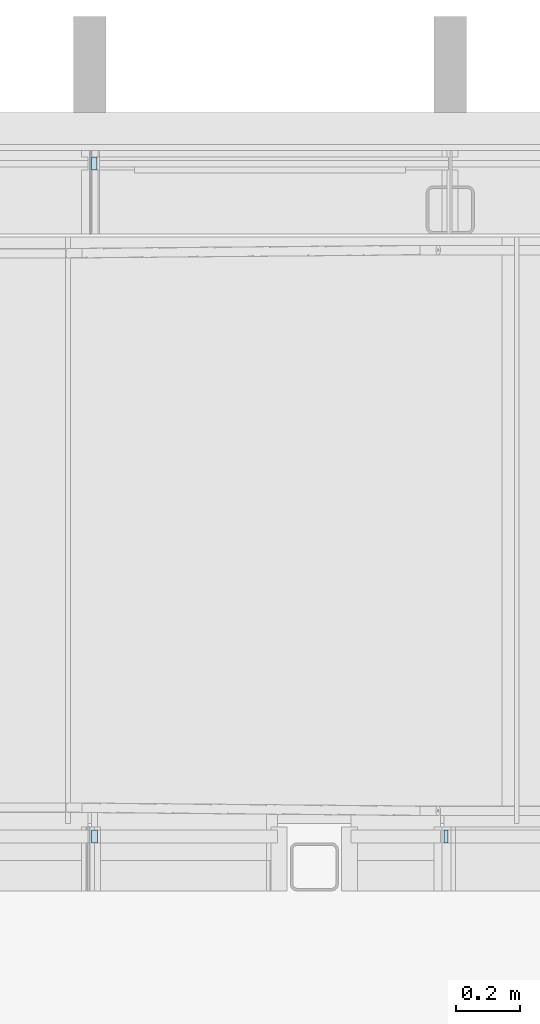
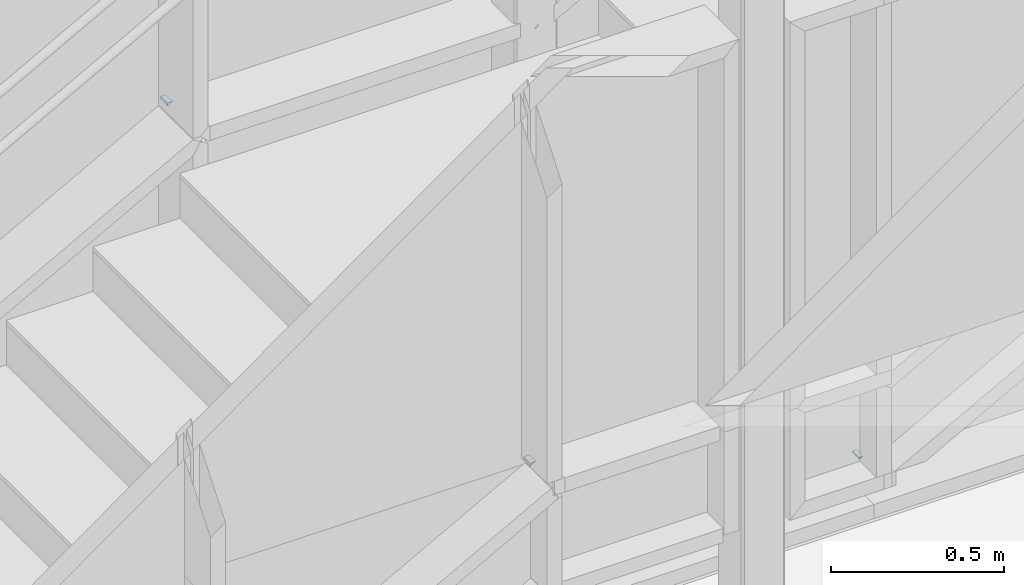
# One storey, part 85 of 301: 3 plates, 3 elements without a shape of their own.
"""IFC2X3 building model written with IfcOpenShell, lengths in millimetres."""

from ifc_helpers import new_model, entity, si_unit, converted_unit, derived_unit, money_unit, direction, frame, origin_with_axes, place, context, subcontext, project, spatial, faceted_brep, material, type_object, element, aggregate, save


model = new_model("IFC2X3")

# Units and contexts
model_context = context("Model", 3, precision=0.01, world=origin_with_axes(), true_north=direction((0.0, 1.0)))
body_context = subcontext(model_context, "Body", "Model", "MODEL_VIEW")
ifc_project = project(units=[si_unit("LENGTHUNIT", "METRE", prefix="MILLI"), si_unit("AREAUNIT", "SQUARE_METRE"), si_unit("VOLUMEUNIT", "CUBIC_METRE"), converted_unit("PLANEANGLEUNIT", "DEGREE", entity("IfcPlaneAngleMeasure", 0.0174532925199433), si_unit("PLANEANGLEUNIT", "RADIAN"), dimensions=[0, 0, 0, 0, 0, 0, 0]), money_unit("EUR"), converted_unit("TIMEUNIT", "Year", entity("IfcTimeMeasure", 31557600.0), si_unit("TIMEUNIT", "SECOND"), dimensions=[0, 0, 1, 0, 0, 0, 0]), si_unit("MASSUNIT", "GRAM", prefix="KILO"), si_unit("THERMODYNAMICTEMPERATUREUNIT", "DEGREE_CELSIUS"), si_unit("LUMINOUSINTENSITYUNIT", "LUMEN"), si_unit("ENERGYUNIT", "JOULE", prefix="MEGA"), derived_unit("THERMALCONDUCTANCEUNIT", [(si_unit("POWERUNIT", "WATT"), 1), (si_unit("LENGTHUNIT", "METRE"), -1), (si_unit("THERMODYNAMICTEMPERATUREUNIT", "KELVIN"), -1)]), derived_unit("SPECIFICHEATCAPACITYUNIT", [(si_unit("ENERGYUNIT", "JOULE"), 1), (si_unit("MASSUNIT", "GRAM", prefix="KILO"), -1), (si_unit("THERMODYNAMICTEMPERATUREUNIT", "KELVIN"), -1)]), derived_unit("MASSDENSITYUNIT", [(si_unit("MASSUNIT", "GRAM", prefix="KILO"), 1), (si_unit("VOLUMEUNIT", "CUBIC_METRE"), -1)])], contexts=[model_context])

# Site, building, storey
site_placement = place(None, frame((0.0, 0.0, 8650.0), z_axis=(0.0, 0.0, 1.0), x_axis=(1.0, 0.0, 0.0)))
site = spatial("IfcSite", under=ifc_project, at=site_placement, Name="43301:001:0844", CompositionType="ELEMENT")
building_placement = place(site_placement, origin_with_axes())
building = spatial("IfcBuilding", under=site, at=building_placement, Name="Kuressaare Ametikooli tuulikute mehaanikute õppekorpus", CompositionType="ELEMENT")
storey_placement = place(building_placement, origin_with_axes())
storey = spatial("IfcBuildingStorey", under=building, at=storey_placement, Name="1.korrus", CompositionType="ELEMENT", Elevation=0.0)

# Curtain wall, plate
curtain_wall_type = type_object("IfcCurtainWallType", Name="Curtain Wall Type", PredefinedType="NOTDEFINED")
curtain_wall_1_placement = place(storey_placement, frame((116704.6026822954, 28579.57374875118, 35.00000000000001), z_axis=(0.0, 0.0, 1.0), x_axis=(1.0, 0.0, 0.0)))
curtain_wall_1 = element("IfcCurtainWall", 1, at=curtain_wall_1_placement, inside=storey, type_object=curtain_wall_type, Name="KF-1.1")
ifc_material = material(Name="Klaas")
plate_type_1 = type_object("IfcPlateType", Name="18 x 11 x 40", PredefinedType="NOTDEFINED")
plate_1_placement = place(curtain_wall_1_placement, frame((-6179.289715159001, 0.0, 2104.545677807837), z_axis=(0.0, 0.0, 1.0), x_axis=(-1.0, 0.0, 0.0)))
plate_1 = element("IfcPlate", 2, at=plate_1_placement, type_object=plate_type_1, material=ifc_material, context=body_context, shape_type="Brep", body=[
    faceted_brep([(-14.54414219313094, 19.99999999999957, 4.003142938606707), (-14.54414219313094, -19.99999999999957, 4.003142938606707), (3.210284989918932, -19.99999999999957, 4.003142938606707), (3.210284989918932, 19.99999999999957, 4.003142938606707), (3.210284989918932, 19.99999999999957, -6.528861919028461), (3.210284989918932, -19.99999999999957, -6.528861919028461)], [[[0, 1, 2, 3]], [[4, 5, 1, 0]], [[1, 5, 2]], [[3, 2, 5, 4]], [[0, 3, 4]]]),
])
aggregate(curtain_wall_1, [plate_1])

curtain_wall_2_placement = place(storey_placement, frame((105155.4360221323, 26479.57374875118, 34.99996632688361), z_axis=(0.0, 0.0, 1.0), x_axis=(1.0, 0.0, 0.0)))
curtain_wall_2 = element("IfcCurtainWall", 3, at=curtain_wall_2_placement, inside=storey, type_object=curtain_wall_type, Name="SKF-1.1,EI60")
plate_type_2 = type_object("IfcPlateType", Name="Main Panel 20 x 11 x 40", PredefinedType="NOTDEFINED")
plate_2_placement = place(curtain_wall_2_placement, frame((5370.787878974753, 0.0, 2104.683230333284), z_axis=(0.0, 0.0, 1.0), x_axis=(-1.0, 0.0, 0.0)))
plate_2 = element("IfcPlate", 4, at=plate_2_placement, type_object=plate_type_2, material=ifc_material, context=body_context, shape_type="Brep", body=[
    faceted_brep([(-15.5840741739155, 19.99999999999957, 3.865641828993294), (-15.5840741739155, -19.99999999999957, 3.865641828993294), (4.121218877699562, -19.99999999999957, 3.865641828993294), (4.121218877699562, 19.99999999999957, 3.865641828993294), (4.121218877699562, 19.99999999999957, -6.849482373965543), (4.121218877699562, -19.99999999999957, -6.849482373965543)], [[[0, 1, 2, 3]], [[4, 5, 1, 0]], [[1, 5, 2]], [[3, 2, 5, 4]], [[0, 3, 4]]]),
])
aggregate(curtain_wall_2, [plate_2])

curtain_wall_3_placement = place(storey_placement, frame((111472.5258007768, 26479.57374875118, 1595.348937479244), z_axis=(0.0, 0.0, 1.0), x_axis=(1.0, 0.0, 0.0)))
curtain_wall_3 = element("IfcCurtainWall", 5, at=curtain_wall_3_placement, inside=storey, type_object=curtain_wall_type, Name="SKF-1.2,EI60")
plate_type_3 = type_object("IfcPlateType", Name="Main Panel 14 x 7 x 40", PredefinedType="NOTDEFINED")
plate_3_placement = place(curtain_wall_3_placement, frame((153.8133380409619, 0.0, 184.3282660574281), z_axis=(0.0, 0.0, 1.0), x_axis=(-1.0, 0.0, 0.0)))
plate_3 = element("IfcPlate", 6, at=plate_3_placement, type_object=plate_type_3, material=ifc_material, context=body_context, shape_type="Brep", body=[
    faceted_brep([(-9.27826553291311, 19.99999999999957, 0.02260562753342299), (-9.27826553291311, -19.99999999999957, 0.02260562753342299), (4.236693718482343, -19.99999999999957, 0.02260521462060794), (4.236693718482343, 19.99999999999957, 0.02260521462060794), (4.236693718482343, 19.99999999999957, -7.326377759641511), (4.236693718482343, -19.99999999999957, -7.326377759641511)], [[[0, 1, 2, 3]], [[4, 5, 1, 0]], [[1, 5, 2]], [[3, 2, 5, 4]], [[0, 3, 4]]]),
])
aggregate(curtain_wall_3, [plate_3])

save(model, "model.ifc")
